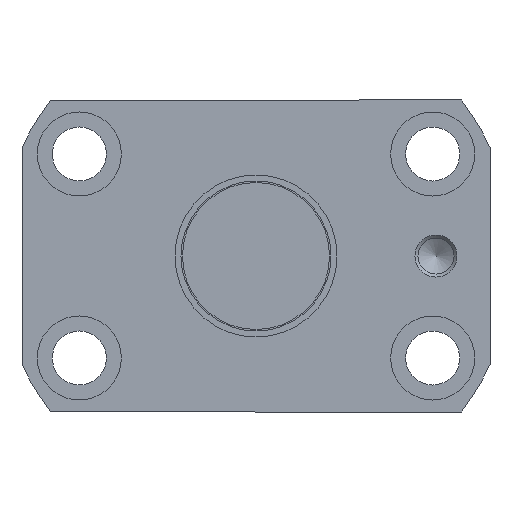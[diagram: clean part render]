
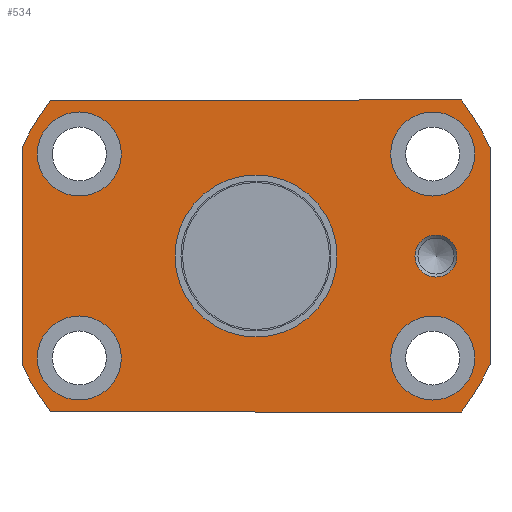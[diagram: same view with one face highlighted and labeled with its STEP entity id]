
A CAD part, left-side view. The second image highlights one B-rep face of the part: STEP entity #534.
In plain terms, the highlighted planar face has unit normal (-1, 0, 0).
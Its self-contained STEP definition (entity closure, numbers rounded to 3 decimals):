
#369=CARTESIAN_POINT('',(452.491,-26.5,0.));
#370=VERTEX_POINT('',#369);
#371=CARTESIAN_POINT('',(452.491,-30.0,0.));
#372=DIRECTION('',(-1.0,0.0,0.0));
#373=DIRECTION('',(0.0,-1.0,0.0));
#374=AXIS2_PLACEMENT_3D('',#371,#372,#373);
#375=CIRCLE('',#374,3.5);
#376=EDGE_CURVE('',#370,#370,#375,.T.);
#401=CARTESIAN_POINT('',(452.491,19.75,0.0));
#402=DIRECTION('',(-1.0,0.0,0.0));
#403=DIRECTION('',(0.0,0.0,1.0));
#404=AXIS2_PLACEMENT_3D('',#401,#402,#403);
#405=PLANE('',#404);
#406=CARTESIAN_POINT('',(452.491,-34.249,-26.));
#407=VERTEX_POINT('',#406);
#408=CARTESIAN_POINT('',(452.491,34.249,-26.0));
#409=VERTEX_POINT('',#408);
#410=CARTESIAN_POINT('',(452.491,-34.249,-26.));
#411=DIRECTION('',(0.0,1.0,0.0));
#412=VECTOR('',#411,68.498);
#413=LINE('',#410,#412);
#414=EDGE_CURVE('',#407,#409,#413,.T.);
#415=ORIENTED_EDGE('',*,*,#414,.F.);
#416=CARTESIAN_POINT('',(452.491,-39.0,-18.111));
#417=VERTEX_POINT('',#416);
#418=CARTESIAN_POINT('',(452.491,0.,0.0));
#419=DIRECTION('',(1.0,0.0,0.0));
#420=DIRECTION('',(0.0,1.0,0.0));
#421=AXIS2_PLACEMENT_3D('',#418,#419,#420);
#422=CIRCLE('',#421,43.0);
#423=EDGE_CURVE('',#417,#407,#422,.T.);
#424=ORIENTED_EDGE('',*,*,#423,.F.);
#425=CARTESIAN_POINT('',(452.491,-39.0,18.111));
#426=VERTEX_POINT('',#425);
#427=CARTESIAN_POINT('',(452.491,-39.0,18.111));
#428=DIRECTION('',(0.0,0.0,-1.0));
#429=VECTOR('',#428,36.222);
#430=LINE('',#427,#429);
#431=EDGE_CURVE('',#426,#417,#430,.T.);
#432=ORIENTED_EDGE('',*,*,#431,.F.);
#433=CARTESIAN_POINT('',(452.491,-34.249,26.));
#434=VERTEX_POINT('',#433);
#435=CARTESIAN_POINT('',(452.491,0.,0.0));
#436=DIRECTION('',(1.0,0.0,0.0));
#437=DIRECTION('',(0.0,1.0,0.0));
#438=AXIS2_PLACEMENT_3D('',#435,#436,#437);
#439=CIRCLE('',#438,43.0);
#440=EDGE_CURVE('',#434,#426,#439,.T.);
#441=ORIENTED_EDGE('',*,*,#440,.F.);
#442=CARTESIAN_POINT('',(452.491,34.249,26.0));
#443=VERTEX_POINT('',#442);
#444=CARTESIAN_POINT('',(452.491,34.249,26.0));
#445=DIRECTION('',(0.0,-1.0,0.0));
#446=VECTOR('',#445,68.498);
#447=LINE('',#444,#446);
#448=EDGE_CURVE('',#443,#434,#447,.T.);
#449=ORIENTED_EDGE('',*,*,#448,.F.);
#450=CARTESIAN_POINT('',(452.491,39.0,18.111));
#451=VERTEX_POINT('',#450);
#452=CARTESIAN_POINT('',(452.491,0.,0.0));
#453=DIRECTION('',(1.0,0.0,0.0));
#454=DIRECTION('',(0.0,1.0,0.0));
#455=AXIS2_PLACEMENT_3D('',#452,#453,#454);
#456=CIRCLE('',#455,43.0);
#457=EDGE_CURVE('',#451,#443,#456,.T.);
#458=ORIENTED_EDGE('',*,*,#457,.F.);
#459=CARTESIAN_POINT('',(452.491,39.,-18.111));
#460=VERTEX_POINT('',#459);
#461=CARTESIAN_POINT('',(452.491,39.,-18.111));
#462=DIRECTION('',(0.0,0.0,1.0));
#463=VECTOR('',#462,36.222);
#464=LINE('',#461,#463);
#465=EDGE_CURVE('',#460,#451,#464,.T.);
#466=ORIENTED_EDGE('',*,*,#465,.F.);
#467=CARTESIAN_POINT('',(452.491,0.,0.0));
#468=DIRECTION('',(1.0,0.0,0.0));
#469=DIRECTION('',(0.0,1.0,0.0));
#470=AXIS2_PLACEMENT_3D('',#467,#468,#469);
#471=CIRCLE('',#470,43.0);
#472=EDGE_CURVE('',#409,#460,#471,.T.);
#473=ORIENTED_EDGE('',*,*,#472,.F.);
#474=EDGE_LOOP('',(#415,#424,#432,#441,#449,#458,#466,#473));
#475=FACE_OUTER_BOUND('',#474,.T.);
#476=CARTESIAN_POINT('',(452.491,13.5,0.0));
#477=VERTEX_POINT('',#476);
#478=CARTESIAN_POINT('',(452.491,0.,0.0));
#479=DIRECTION('',(1.0,0.0,0.0));
#480=DIRECTION('',(0.0,1.0,0.0));
#481=AXIS2_PLACEMENT_3D('',#478,#479,#480);
#482=CIRCLE('',#481,13.5);
#483=EDGE_CURVE('',#477,#477,#482,.T.);
#484=ORIENTED_EDGE('',*,*,#483,.T.);
#485=EDGE_LOOP('',(#484));
#486=FACE_BOUND('',#485,.T.);
#487=CARTESIAN_POINT('',(452.491,-22.445,-17.));
#488=VERTEX_POINT('',#487);
#489=CARTESIAN_POINT('',(452.491,-29.445,-17.));
#490=DIRECTION('',(1.0,0.0,0.0));
#491=DIRECTION('',(0.0,1.0,0.0));
#492=AXIS2_PLACEMENT_3D('',#489,#490,#491);
#493=CIRCLE('',#492,7.);
#494=EDGE_CURVE('',#488,#488,#493,.T.);
#495=ORIENTED_EDGE('',*,*,#494,.T.);
#496=EDGE_LOOP('',(#495));
#497=FACE_BOUND('',#496,.T.);
#498=CARTESIAN_POINT('',(452.491,36.445,17.));
#499=VERTEX_POINT('',#498);
#500=CARTESIAN_POINT('',(452.491,29.445,17.));
#501=DIRECTION('',(1.0,0.0,0.0));
#502=DIRECTION('',(0.0,1.0,0.0));
#503=AXIS2_PLACEMENT_3D('',#500,#501,#502);
#504=CIRCLE('',#503,7.);
#505=EDGE_CURVE('',#499,#499,#504,.T.);
#506=ORIENTED_EDGE('',*,*,#505,.T.);
#507=EDGE_LOOP('',(#506));
#508=FACE_BOUND('',#507,.T.);
#509=CARTESIAN_POINT('',(452.491,-22.445,17.));
#510=VERTEX_POINT('',#509);
#511=CARTESIAN_POINT('',(452.491,-29.445,17.));
#512=DIRECTION('',(1.0,0.0,0.0));
#513=DIRECTION('',(0.0,1.0,0.0));
#514=AXIS2_PLACEMENT_3D('',#511,#512,#513);
#515=CIRCLE('',#514,7.);
#516=EDGE_CURVE('',#510,#510,#515,.T.);
#517=ORIENTED_EDGE('',*,*,#516,.T.);
#518=EDGE_LOOP('',(#517));
#519=FACE_BOUND('',#518,.T.);
#520=CARTESIAN_POINT('',(452.491,36.445,-17.));
#521=VERTEX_POINT('',#520);
#522=CARTESIAN_POINT('',(452.491,29.445,-17.));
#523=DIRECTION('',(1.0,0.0,0.0));
#524=DIRECTION('',(0.0,1.0,0.0));
#525=AXIS2_PLACEMENT_3D('',#522,#523,#524);
#526=CIRCLE('',#525,7.);
#527=EDGE_CURVE('',#521,#521,#526,.T.);
#528=ORIENTED_EDGE('',*,*,#527,.T.);
#529=EDGE_LOOP('',(#528));
#530=FACE_BOUND('',#529,.T.);
#531=ORIENTED_EDGE('',*,*,#376,.F.);
#532=EDGE_LOOP('',(#531));
#533=FACE_BOUND('',#532,.T.);
#534=ADVANCED_FACE('',(#475,#486,#497,#508,#519,#530,#533),#405,.T.);
